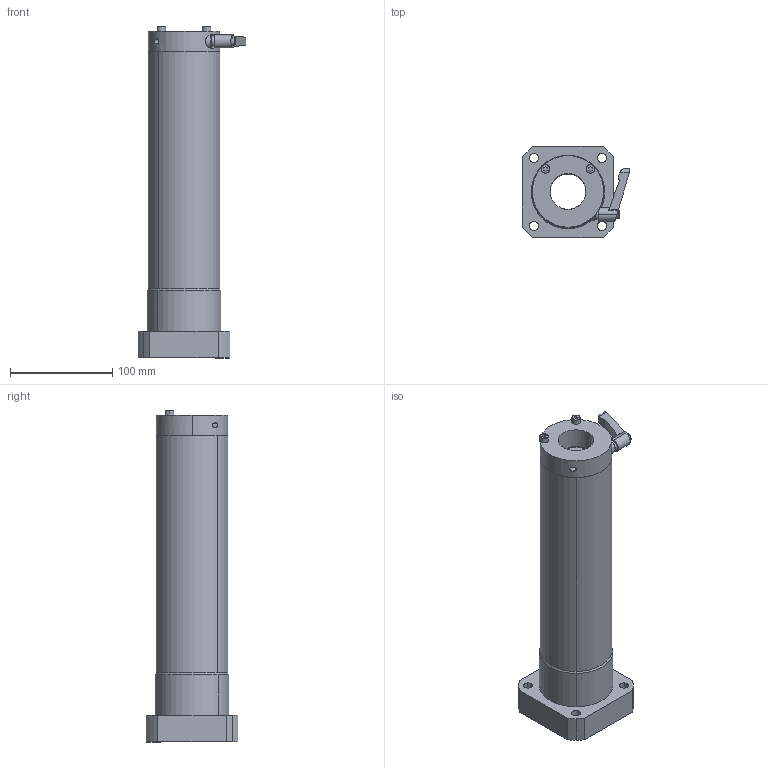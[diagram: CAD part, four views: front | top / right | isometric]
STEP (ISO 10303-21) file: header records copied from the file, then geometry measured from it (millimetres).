
FILE_DESCRIPTION (( 'STEP AP214' ), '1' );
FILE_NAME ('LFWL35BMF-CS.STEP', '2023-06-27T04:29:00', ( '' ), ( '' ), 'SwSTEP 2.0', 'SolidWorks 2019', '' );
FILE_SCHEMA (( 'AUTOMOTIVE_DESIGN' ));
Length unit declared in the file: millimetre
Products named in the file (3): LFWL35BMF-CS; LFWL35BMF; “ÁSCK3520SS-S5.5
Assembly tree (2 placements, depth 2):
  LFWL35BMF-CS
    LFWL35BMF
    “ÁSCK3520SS-S5.5
Bounding box: 105.7 x 90 x 325 mm (x, y, z)
Volume: 1023023.6 mm3; surface area: 147126.3 mm2
Topology: 3 solids, 9 shells, 212 faces, 534 edges, 336 vertices
Faces by surface type: cylinder 85, plane 63, bspline 43, cone 13, torus 8
Entity records: 9358 total; most frequent: CARTESIAN_POINT 2015, DIRECTION 1135, ORIENTED_EDGE 1068, EDGE_CURVE 534, AXIS2_PLACEMENT_3D 472, VERTEX_POINT 336, CIRCLE 298, EDGE_LOOP 256
